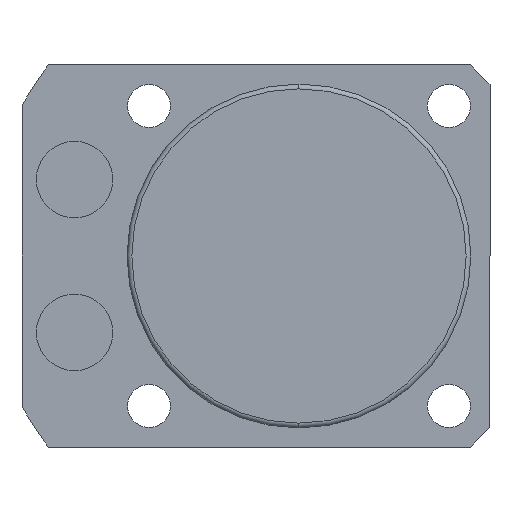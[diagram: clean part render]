
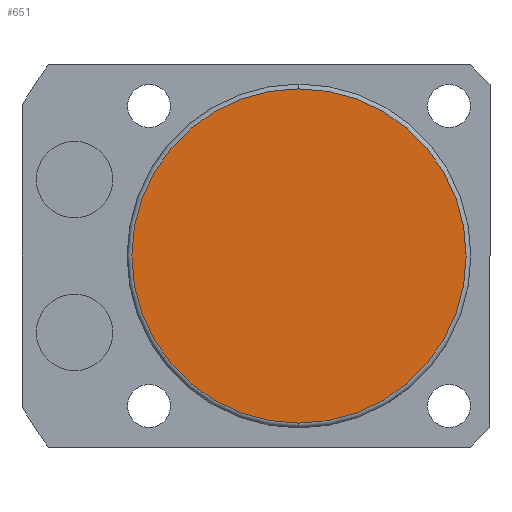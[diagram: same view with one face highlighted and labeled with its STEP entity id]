
A CAD part, front view. The second image highlights one B-rep face of the part: STEP entity #651.
In plain terms, the highlighted planar face has unit normal (0, -1, 0).
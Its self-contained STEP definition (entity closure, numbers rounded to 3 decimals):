
#32 = VERTEX_POINT ( 'NONE', #1456 ) ;
#47 = DIRECTION ( 'NONE',  ( 0., -1., 0. ) ) ;
#177 = CIRCLE ( 'NONE', #520, 17.5 ) ;
#185 = DIRECTION ( 'NONE',  ( 0., -1., 0. ) ) ;
#520 = AXIS2_PLACEMENT_3D ( 'NONE', #2465, #185, #617 ) ;
#601 = PLANE ( 'NONE',  #1353 ) ;
#617 = DIRECTION ( 'NONE',  ( 0., 0., -1. ) ) ;
#651 = ADVANCED_FACE ( 'NONE', ( #2534 ), #601, .T. ) ;
#798 = AXIS2_PLACEMENT_3D ( 'NONE', #2321, #47, #1506 ) ;
#972 = ORIENTED_EDGE ( 'NONE', *, *, #1892, .T. ) ;
#1021 = DIRECTION ( 'NONE',  ( 0., 0., -1. ) ) ;
#1028 = VERTEX_POINT ( 'NONE', #1711 ) ;
#1164 = CIRCLE ( 'NONE', #798, 17.5 ) ;
#1353 = AXIS2_PLACEMENT_3D ( 'NONE', #2680, #1649, #1021 ) ;
#1456 = CARTESIAN_POINT ( 'NONE',  ( 0., -130.5, 17.5 ) ) ;
#1506 = DIRECTION ( 'NONE',  ( 0., 0., -1. ) ) ;
#1543 = EDGE_CURVE ( 'NONE', #1028, #32, #1164, .T. ) ;
#1569 = ORIENTED_EDGE ( 'NONE', *, *, #1543, .T. ) ;
#1649 = DIRECTION ( 'NONE',  ( 0., -1., 0. ) ) ;
#1711 = CARTESIAN_POINT ( 'NONE',  ( 0., -130.5, -17.5 ) ) ;
#1892 = EDGE_CURVE ( 'NONE', #32, #1028, #177, .T. ) ;
#2321 = CARTESIAN_POINT ( 'NONE',  ( 0., -130.5, 0. ) ) ;
#2453 = EDGE_LOOP ( 'NONE', ( #1569, #972 ) ) ;
#2465 = CARTESIAN_POINT ( 'NONE',  ( 0., -130.5, 0. ) ) ;
#2534 = FACE_OUTER_BOUND ( 'NONE', #2453, .T. ) ;
#2680 = CARTESIAN_POINT ( 'NONE',  ( 0., -130.5, 0. ) ) ;
